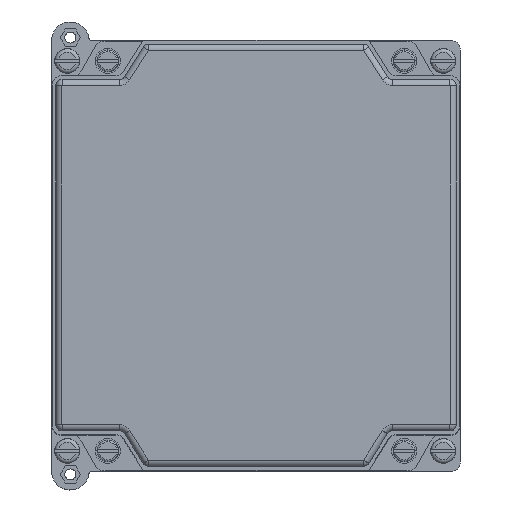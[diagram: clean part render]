
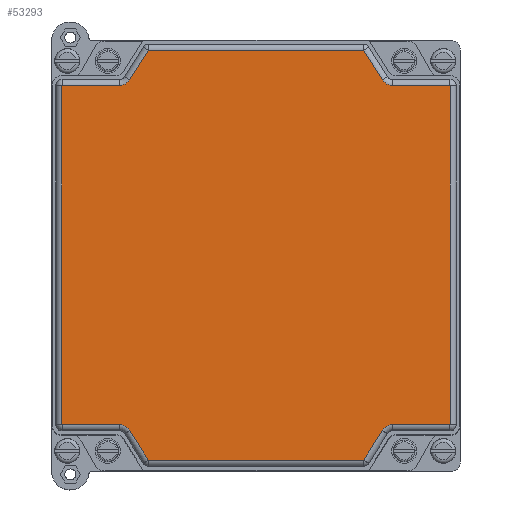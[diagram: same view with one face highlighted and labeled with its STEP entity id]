
A CAD part, top view. The second image highlights one B-rep face of the part: STEP entity #53293.
In plain terms, the highlighted planar face has unit normal (0, 0, 1).
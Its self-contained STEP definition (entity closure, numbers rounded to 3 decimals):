
#53293=ADVANCED_FACE('',(#114854),#114856,.T.);
#114854=FACE_BOUND('',#114855,.T.);
#114855=EDGE_LOOP('',(#162673,#162674,#162675,#162676,#162677,#162678,#162679,#162680,
#162681,#162682,#162683,#162684,#162685,#162686,#162687,#162688,#162689,#162690,
#162691,#162692,#162693,#162694,#162695,#162696));
#114856=PLANE('',#114857);
#114857=AXIS2_PLACEMENT_3D('',#114858,#114859,#114860);
#114858=CARTESIAN_POINT('',(0.,0.,156.5));
#114859=DIRECTION('',(0.,0.,1.));
#114860=DIRECTION('',(1.,0.,0.));
#162673=ORIENTED_EDGE('',*,*,#184465,.T.);
#162674=ORIENTED_EDGE('',*,*,#184512,.T.);
#162675=ORIENTED_EDGE('',*,*,#184510,.T.);
#162676=ORIENTED_EDGE('',*,*,#184508,.T.);
#162677=ORIENTED_EDGE('',*,*,#184506,.T.);
#162678=ORIENTED_EDGE('',*,*,#184504,.T.);
#162679=ORIENTED_EDGE('',*,*,#184502,.T.);
#162680=ORIENTED_EDGE('',*,*,#184500,.T.);
#162681=ORIENTED_EDGE('',*,*,#184498,.T.);
#162682=ORIENTED_EDGE('',*,*,#184496,.T.);
#162683=ORIENTED_EDGE('',*,*,#184494,.T.);
#162684=ORIENTED_EDGE('',*,*,#184492,.T.);
#162685=ORIENTED_EDGE('',*,*,#184490,.T.);
#162686=ORIENTED_EDGE('',*,*,#184488,.T.);
#162687=ORIENTED_EDGE('',*,*,#184486,.T.);
#162688=ORIENTED_EDGE('',*,*,#184484,.T.);
#162689=ORIENTED_EDGE('',*,*,#184482,.T.);
#162690=ORIENTED_EDGE('',*,*,#184480,.T.);
#162691=ORIENTED_EDGE('',*,*,#184478,.T.);
#162692=ORIENTED_EDGE('',*,*,#184476,.T.);
#162693=ORIENTED_EDGE('',*,*,#184474,.T.);
#162694=ORIENTED_EDGE('',*,*,#184472,.T.);
#162695=ORIENTED_EDGE('',*,*,#184470,.T.);
#162696=ORIENTED_EDGE('',*,*,#184468,.T.);
#184465=EDGE_CURVE('',#213086,#213087,#213088,.T.);
#184468=EDGE_CURVE('',#213091,#213086,#213092,.T.);
#184470=EDGE_CURVE('',#213094,#213091,#213095,.T.);
#184472=EDGE_CURVE('',#213097,#213094,#213098,.T.);
#184474=EDGE_CURVE('',#213100,#213097,#213101,.T.);
#184476=EDGE_CURVE('',#213103,#213100,#213104,.T.);
#184478=EDGE_CURVE('',#213106,#213103,#213107,.T.);
#184480=EDGE_CURVE('',#213109,#213106,#213110,.T.);
#184482=EDGE_CURVE('',#213112,#213109,#213113,.T.);
#184484=EDGE_CURVE('',#213115,#213112,#213116,.T.);
#184486=EDGE_CURVE('',#213118,#213115,#213119,.T.);
#184488=EDGE_CURVE('',#213121,#213118,#213122,.T.);
#184490=EDGE_CURVE('',#213124,#213121,#213125,.T.);
#184492=EDGE_CURVE('',#213127,#213124,#213128,.T.);
#184494=EDGE_CURVE('',#213130,#213127,#213131,.T.);
#184496=EDGE_CURVE('',#213133,#213130,#213134,.T.);
#184498=EDGE_CURVE('',#213136,#213133,#213137,.T.);
#184500=EDGE_CURVE('',#213139,#213136,#213140,.T.);
#184502=EDGE_CURVE('',#213142,#213139,#213143,.T.);
#184504=EDGE_CURVE('',#213145,#213142,#213146,.T.);
#184506=EDGE_CURVE('',#213148,#213145,#213149,.T.);
#184508=EDGE_CURVE('',#213151,#213148,#213152,.T.);
#184510=EDGE_CURVE('',#213154,#213151,#213155,.T.);
#184512=EDGE_CURVE('',#213087,#213154,#213157,.T.);
#213086=VERTEX_POINT('',#274391);
#213087=VERTEX_POINT('',#274392);
#213088=LINE('',#274393,#274394);
#213091=VERTEX_POINT('',#274404);
#213092=CIRCLE('',#274405,0.064);
#213094=VERTEX_POINT('',#274413);
#213095=LINE('',#274414,#274415);
#213097=VERTEX_POINT('',#274421);
#213098=CIRCLE('',#274422,3.936);
#213100=VERTEX_POINT('',#274430);
#213101=LINE('',#274431,#274432);
#213103=VERTEX_POINT('',#274438);
#213104=CIRCLE('',#274439,0.064);
#213106=VERTEX_POINT('',#274447);
#213107=LINE('',#274448,#274449);
#213109=VERTEX_POINT('',#274455);
#213110=CIRCLE('',#274456,0.064);
#213112=VERTEX_POINT('',#274464);
#213113=LINE('',#274465,#274466);
#213115=VERTEX_POINT('',#274472);
#213116=CIRCLE('',#274473,3.936);
#213118=VERTEX_POINT('',#274481);
#213119=LINE('',#274482,#274483);
#213121=VERTEX_POINT('',#274489);
#213122=CIRCLE('',#274490,0.064);
#213124=VERTEX_POINT('',#274498);
#213125=LINE('',#274499,#274500);
#213127=VERTEX_POINT('',#274506);
#213128=CIRCLE('',#274507,0.064);
#213130=VERTEX_POINT('',#274515);
#213131=LINE('',#274516,#274517);
#213133=VERTEX_POINT('',#274523);
#213134=CIRCLE('',#274524,3.936);
#213136=VERTEX_POINT('',#274532);
#213137=LINE('',#274533,#274534);
#213139=VERTEX_POINT('',#274540);
#213140=CIRCLE('',#274541,0.064);
#213142=VERTEX_POINT('',#274549);
#213143=LINE('',#274550,#274551);
#213145=VERTEX_POINT('',#274557);
#213146=CIRCLE('',#274558,0.064);
#213148=VERTEX_POINT('',#274566);
#213149=LINE('',#274567,#274568);
#213151=VERTEX_POINT('',#274574);
#213152=CIRCLE('',#274575,3.936);
#213154=VERTEX_POINT('',#274583);
#213155=LINE('',#274584,#274585);
#213157=CIRCLE('',#274591,0.064);
#274391=CARTESIAN_POINT('',(-62.214,54.3,156.5));
#274392=CARTESIAN_POINT('',(-62.214,-54.3,156.5));
#274393=CARTESIAN_POINT('',(-62.214,54.3,156.5));
#274394=VECTOR('',#274395,1.);
#274395=DIRECTION('',(0.,-1.,0.));
#274404=CARTESIAN_POINT('',(-62.15,54.364,156.5));
#274405=AXIS2_PLACEMENT_3D('',#274406,#274407,#274408);
#274406=CARTESIAN_POINT('',(-62.15,54.3,156.5));
#274407=DIRECTION('',(0.,0.,1.));
#274408=DIRECTION('',(0.,1.,0.));
#274413=CARTESIAN_POINT('',(-43.822,54.364,156.5));
#274414=CARTESIAN_POINT('',(-43.822,54.364,156.5));
#274415=VECTOR('',#274416,1.);
#274416=DIRECTION('',(-1.,0.,0.));
#274421=CARTESIAN_POINT('',(-40.492,56.201,156.5));
#274422=AXIS2_PLACEMENT_3D('',#274423,#274424,#274425);
#274423=CARTESIAN_POINT('',(-43.822,58.3,156.5));
#274424=DIRECTION('',(0.,0.,-1.));
#274425=DIRECTION('',(0.846,-0.533,0.));
#274430=CARTESIAN_POINT('',(-34.513,65.684,156.5));
#274431=CARTESIAN_POINT('',(-34.513,65.684,156.5));
#274432=VECTOR('',#274433,1.);
#274433=DIRECTION('',(-0.533,-0.846,0.));
#274438=CARTESIAN_POINT('',(-34.46,65.714,156.5));
#274439=AXIS2_PLACEMENT_3D('',#274440,#274441,#274442);
#274440=CARTESIAN_POINT('',(-34.46,65.65,156.5));
#274441=DIRECTION('',(0.,0.,1.));
#274442=DIRECTION('',(0.,1.,0.));
#274447=CARTESIAN_POINT('',(34.46,65.714,156.5));
#274448=CARTESIAN_POINT('',(34.46,65.714,156.5));
#274449=VECTOR('',#274450,1.);
#274450=DIRECTION('',(-1.,0.,0.));
#274455=CARTESIAN_POINT('',(34.513,65.684,156.5));
#274456=AXIS2_PLACEMENT_3D('',#274457,#274458,#274459);
#274457=CARTESIAN_POINT('',(34.46,65.65,156.5));
#274458=DIRECTION('',(0.,0.,1.));
#274459=DIRECTION('',(0.846,0.533,0.));
#274464=CARTESIAN_POINT('',(40.492,56.201,156.5));
#274465=CARTESIAN_POINT('',(40.492,56.201,156.5));
#274466=VECTOR('',#274467,1.);
#274467=DIRECTION('',(-0.533,0.846,0.));
#274472=CARTESIAN_POINT('',(43.822,54.364,156.5));
#274473=AXIS2_PLACEMENT_3D('',#274474,#274475,#274476);
#274474=CARTESIAN_POINT('',(43.822,58.3,156.5));
#274475=DIRECTION('',(0.,0.,-1.));
#274476=DIRECTION('',(0.,-1.,0.));
#274481=CARTESIAN_POINT('',(62.15,54.364,156.5));
#274482=CARTESIAN_POINT('',(62.15,54.364,156.5));
#274483=VECTOR('',#274484,1.);
#274484=DIRECTION('',(-1.,0.,0.));
#274489=CARTESIAN_POINT('',(62.214,54.3,156.5));
#274490=AXIS2_PLACEMENT_3D('',#274491,#274492,#274493);
#274491=CARTESIAN_POINT('',(62.15,54.3,156.5));
#274492=DIRECTION('',(0.,0.,1.));
#274493=DIRECTION('',(1.,0.,0.));
#274498=CARTESIAN_POINT('',(62.214,-54.3,156.5));
#274499=CARTESIAN_POINT('',(62.214,-54.3,156.5));
#274500=VECTOR('',#274501,1.);
#274501=DIRECTION('',(0.,1.,0.));
#274506=CARTESIAN_POINT('',(62.15,-54.364,156.5));
#274507=AXIS2_PLACEMENT_3D('',#274508,#274509,#274510);
#274508=CARTESIAN_POINT('',(62.15,-54.3,156.5));
#274509=DIRECTION('',(0.,0.,1.));
#274510=DIRECTION('',(0.,-1.,0.));
#274515=CARTESIAN_POINT('',(43.822,-54.364,156.5));
#274516=CARTESIAN_POINT('',(43.822,-54.364,156.5));
#274517=VECTOR('',#274518,1.);
#274518=DIRECTION('',(1.,0.,0.));
#274523=CARTESIAN_POINT('',(40.492,-56.201,156.5));
#274524=AXIS2_PLACEMENT_3D('',#274525,#274526,#274527);
#274525=CARTESIAN_POINT('',(43.822,-58.3,156.5));
#274526=DIRECTION('',(0.,0.,-1.));
#274527=DIRECTION('',(-0.846,0.533,0.));
#274532=CARTESIAN_POINT('',(34.513,-65.684,156.5));
#274533=CARTESIAN_POINT('',(34.513,-65.684,156.5));
#274534=VECTOR('',#274535,1.);
#274535=DIRECTION('',(0.533,0.846,0.));
#274540=CARTESIAN_POINT('',(34.46,-65.714,156.5));
#274541=AXIS2_PLACEMENT_3D('',#274542,#274543,#274544);
#274542=CARTESIAN_POINT('',(34.46,-65.65,156.5));
#274543=DIRECTION('',(0.,0.,1.));
#274544=DIRECTION('',(0.,-1.,0.));
#274549=CARTESIAN_POINT('',(-34.46,-65.714,156.5));
#274550=CARTESIAN_POINT('',(-34.46,-65.714,156.5));
#274551=VECTOR('',#274552,1.);
#274552=DIRECTION('',(1.,0.,0.));
#274557=CARTESIAN_POINT('',(-34.513,-65.684,156.5));
#274558=AXIS2_PLACEMENT_3D('',#274559,#274560,#274561);
#274559=CARTESIAN_POINT('',(-34.46,-65.65,156.5));
#274560=DIRECTION('',(0.,0.,1.));
#274561=DIRECTION('',(-0.846,-0.533,0.));
#274566=CARTESIAN_POINT('',(-40.492,-56.201,156.5));
#274567=CARTESIAN_POINT('',(-40.492,-56.201,156.5));
#274568=VECTOR('',#274569,1.);
#274569=DIRECTION('',(0.533,-0.846,0.));
#274574=CARTESIAN_POINT('',(-43.822,-54.364,156.5));
#274575=AXIS2_PLACEMENT_3D('',#274576,#274577,#274578);
#274576=CARTESIAN_POINT('',(-43.822,-58.3,156.5));
#274577=DIRECTION('',(0.,0.,-1.));
#274578=DIRECTION('',(0.,1.,0.));
#274583=CARTESIAN_POINT('',(-62.15,-54.364,156.5));
#274584=CARTESIAN_POINT('',(-62.15,-54.364,156.5));
#274585=VECTOR('',#274586,1.);
#274586=DIRECTION('',(1.,0.,0.));
#274591=AXIS2_PLACEMENT_3D('',#274592,#274593,#274594);
#274592=CARTESIAN_POINT('',(-62.15,-54.3,156.5));
#274593=DIRECTION('',(0.,0.,1.));
#274594=DIRECTION('',(-1.,0.,0.));
